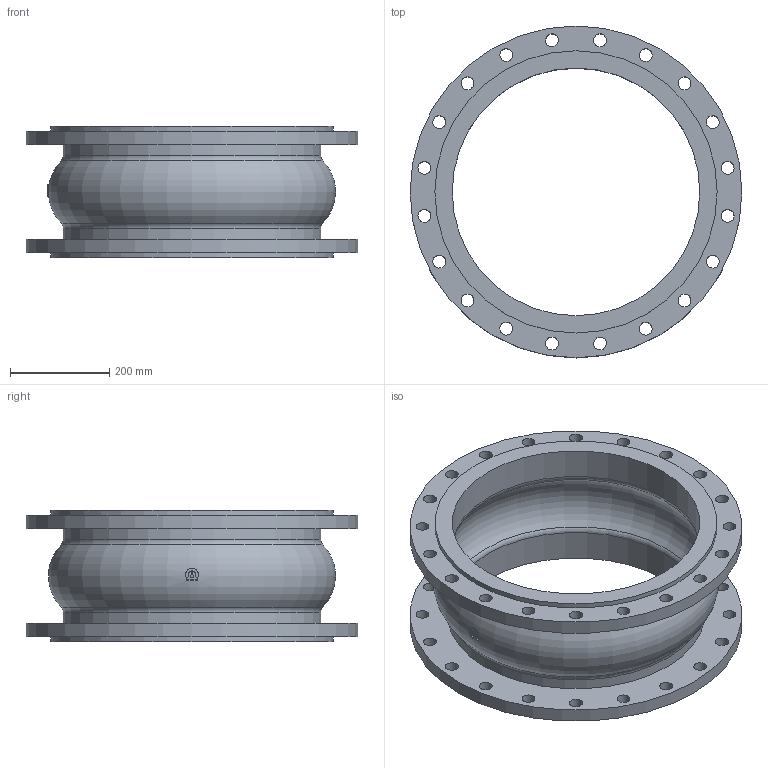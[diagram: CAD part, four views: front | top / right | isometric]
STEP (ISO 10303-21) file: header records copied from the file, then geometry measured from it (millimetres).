
FILE_DESCRIPTION(('STEP AP203'), '1');
FILE_NAME('Êîìïåíñàòîð KMS DN500 PN10', '', ('UNSPECIFIED'), ('UNSPECIFIED'), 'ASCON STEP Converter 1.6', 'ASCON Math Kernel', '');
FILE_SCHEMA(('CONFIG_CONTROL_DESIGN'));
Length unit declared in the file: millimetre
Bounding box: 670 x 670 x 265 mm (x, y, z)
Volume: 12694734.1 mm3; surface area: 1607549.1 mm2
Topology: 1 solids, 1 shells, 77 faces, 196 edges, 128 vertices
Faces by surface type: cylinder 55, plane 13, torus 9
Full cylindrical faces by diameter (mm): 26 x40, 500 x2, 520 x2, 570 x2, 670 x2
Entity records: 3950 total; most frequent: CARTESIAN_POINT 1425, DIRECTION 382, ORIENTED_EDGE 284, EDGE_LOOP 220, AXIS2_PLACEMENT_3D 184, EDGE_CURVE 142, VERTEX_POINT 128, FACE_BOUND 112
